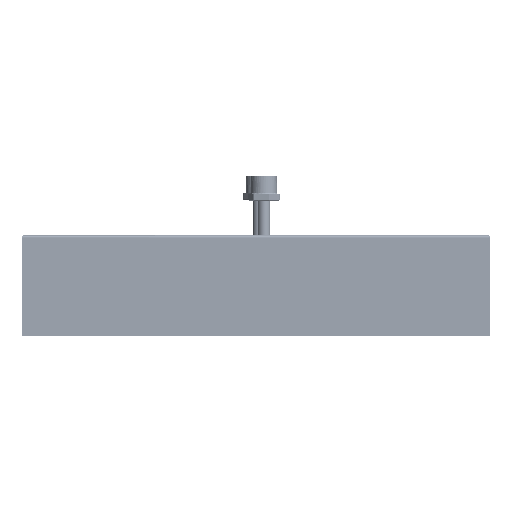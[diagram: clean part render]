
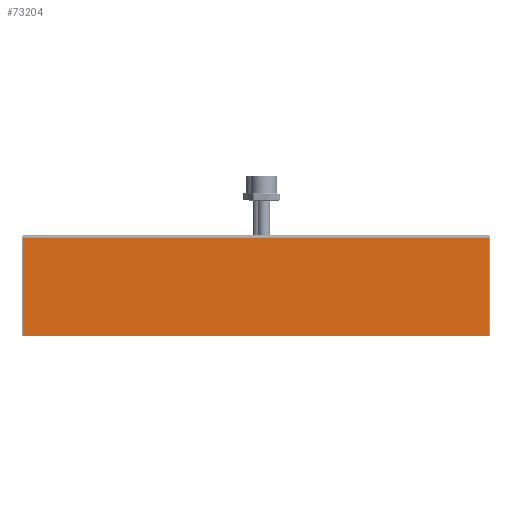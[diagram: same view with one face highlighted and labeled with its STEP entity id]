
A CAD part, front view. The second image highlights one B-rep face of the part: STEP entity #73204.
In plain terms, the highlighted planar face has unit normal (0, -1, 0) as drawn and (0, 1, 0) by its records, which use the part's own axes.
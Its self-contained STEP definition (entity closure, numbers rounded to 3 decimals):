
#6061 = CARTESIAN_POINT ( 'NONE',  ( -183.9, 285., 66. ) ) ;
#7959 = EDGE_LOOP ( 'NONE', ( #37661, #76824, #30877, #9239 ) ) ;
#9239 = ORIENTED_EDGE ( 'NONE', *, *, #51201, .T. ) ;
#9294 = VERTEX_POINT ( 'NONE', #71488 ) ;
#9628 = VECTOR ( 'NONE', #62071, 1000. ) ;
#11846 = CARTESIAN_POINT ( 'NONE',  ( 0., 285., 65. ) ) ;
#13795 = CARTESIAN_POINT ( 'NONE',  ( 183.9, 285., 66. ) ) ;
#15423 = VECTOR ( 'NONE', #30485, 1000. ) ;
#19961 = LINE ( 'NONE', #11846, #22729 ) ;
#22729 = VECTOR ( 'NONE', #71142, 1000. ) ;
#24732 = EDGE_CURVE ( 'NONE', #77685, #9294, #54718, .T. ) ;
#25476 = CARTESIAN_POINT ( 'NONE',  ( 183.9, 285., -13. ) ) ;
#28212 = VECTOR ( 'NONE', #67822, 1000. ) ;
#28216 = CARTESIAN_POINT ( 'NONE',  ( 0., 285., 66. ) ) ;
#30485 = DIRECTION ( 'NONE',  ( 0., 0., 1. ) ) ;
#30877 = ORIENTED_EDGE ( 'NONE', *, *, #69536, .T. ) ;
#37661 = ORIENTED_EDGE ( 'NONE', *, *, #58222, .T. ) ;
#41966 = AXIS2_PLACEMENT_3D ( 'NONE', #28216, #69398, #69658 ) ;
#45518 = PLANE ( 'NONE',  #41966 ) ;
#50481 = VERTEX_POINT ( 'NONE', #63460 ) ;
#51127 = LINE ( 'NONE', #6061, #15423 ) ;
#51201 = EDGE_CURVE ( 'NONE', #64670, #50481, #19961, .T. ) ;
#54718 = LINE ( 'NONE', #67287, #9628 ) ;
#57222 = CARTESIAN_POINT ( 'NONE',  ( -183.9, 285., 65. ) ) ;
#58222 = EDGE_CURVE ( 'NONE', #50481, #77685, #62938, .T. ) ;
#62071 = DIRECTION ( 'NONE',  ( -1., 0., 0. ) ) ;
#62938 = LINE ( 'NONE', #13795, #28212 ) ;
#63460 = CARTESIAN_POINT ( 'NONE',  ( 183.9, 285., 65. ) ) ;
#64670 = VERTEX_POINT ( 'NONE', #57222 ) ;
#67287 = CARTESIAN_POINT ( 'NONE',  ( 0., 285., -13. ) ) ;
#67822 = DIRECTION ( 'NONE',  ( 0., 0., -1. ) ) ;
#69398 = DIRECTION ( 'NONE',  ( 0., 1., 0. ) ) ;
#69536 = EDGE_CURVE ( 'NONE', #9294, #64670, #51127, .T. ) ;
#69658 = DIRECTION ( 'NONE',  ( 0., 0., 1. ) ) ;
#71142 = DIRECTION ( 'NONE',  ( 1., 0., 0. ) ) ;
#71488 = CARTESIAN_POINT ( 'NONE',  ( -183.9, 285., -13. ) ) ;
#71760 = FACE_OUTER_BOUND ( 'NONE', #7959, .T. ) ;
#73204 = ADVANCED_FACE ( 'NONE', ( #71760 ), #45518, .T. ) ;
#76824 = ORIENTED_EDGE ( 'NONE', *, *, #24732, .T. ) ;
#77685 = VERTEX_POINT ( 'NONE', #25476 ) ;
